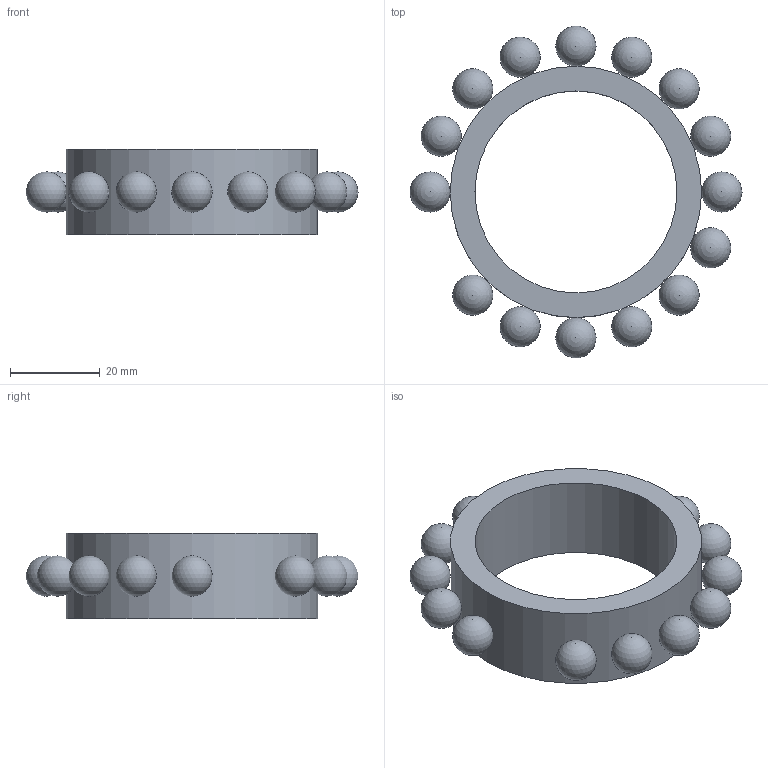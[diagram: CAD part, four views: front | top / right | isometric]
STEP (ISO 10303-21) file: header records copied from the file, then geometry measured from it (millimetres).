
FILE_DESCRIPTION(('Open CASCADE Model'),'2;1');
FILE_NAME('Open CASCADE Shape Model','2026-09-15T22:58:08',('Author'),( 'Open CASCADE'),'Open CASCADE STEP processor 7.9','build123d', 'Unknown');
FILE_SCHEMA(('AUTOMOTIVE_DESIGN { 1 0 10303 214 1 1 1 1 }'));
Length unit declared in the file: millimetre
Products named in the file (1): COMPOUND
Bounding box: 73.97 x 73.93 x 19 mm (x, y, z)
Volume: 22304.5 mm3; surface area: 11590.9 mm2
Topology: 16 solids, 16 shells, 19 faces, 51 edges, 34 vertices
Faces by surface type: sphere 15, cylinder 2, plane 2
Full cylindrical faces by diameter (mm): 45 x1, 56 x1
Entity records: 366 total; most frequent: DIRECTION 62, CARTESIAN_POINT 57, AXIS2_PLACEMENT_3D 24, FACE_BOUND 21, ADVANCED_FACE 19, VERTEX_POINT 19, MANIFOLD_SOLID_BREP 16, CLOSED_SHELL 16
